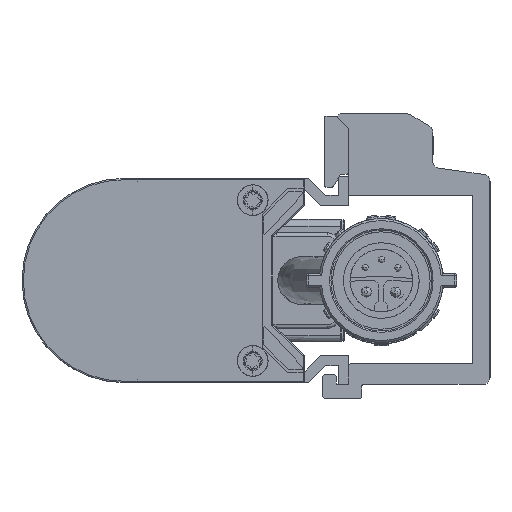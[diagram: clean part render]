
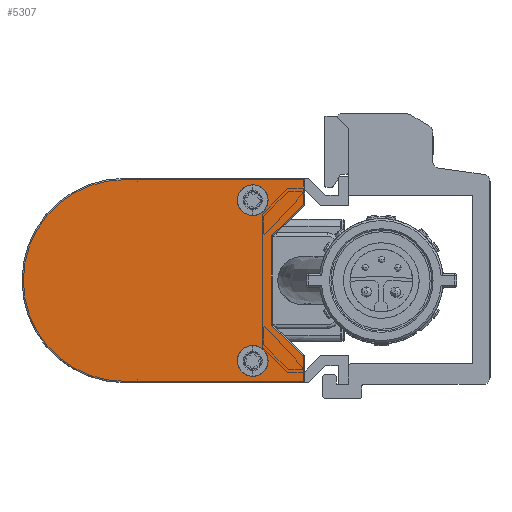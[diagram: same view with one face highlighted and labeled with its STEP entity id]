
A CAD part, left-side view. The second image highlights one B-rep face of the part: STEP entity #5307.
In plain terms, the highlighted planar face has unit normal (-1, 0, 0).
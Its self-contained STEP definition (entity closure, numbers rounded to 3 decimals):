
#2228 = VERTEX_POINT ( 'NONE', #52809 ) ;
#2624 = ORIENTED_EDGE ( 'NONE', *, *, #33411, .F. ) ;
#2977 = CARTESIAN_POINT ( 'NONE',  ( -450., 6.7, 14.8 ) ) ;
#3041 = DIRECTION ( 'NONE',  ( -1., 0., 0. ) ) ;
#3388 = EDGE_LOOP ( 'NONE', ( #6942, #63103 ) ) ;
#3534 = DIRECTION ( 'NONE',  ( -1., 0., 0. ) ) ;
#3594 = FACE_OUTER_BOUND ( 'NONE', #34437, .T. ) ;
#4553 = PLANE ( 'NONE',  #49089 ) ;
#4676 = ORIENTED_EDGE ( 'NONE', *, *, #8423, .F. ) ;
#4709 = CARTESIAN_POINT ( 'NONE',  ( -450., 6.7, -14.8 ) ) ;
#5307 = ADVANCED_FACE ( 'NONE', ( #48463, #63139, #3594 ), #4553, .T. ) ;
#5417 = CIRCLE ( 'NONE', #48314, 2.25 ) ;
#5977 = ORIENTED_EDGE ( 'NONE', *, *, #41009, .T. ) ;
#6240 = CARTESIAN_POINT ( 'NONE',  ( -450., 6.7, -14.8 ) ) ;
#6696 = LINE ( 'NONE', #51505, #49018 ) ;
#6942 = ORIENTED_EDGE ( 'NONE', *, *, #11220, .F. ) ;
#8108 = VERTEX_POINT ( 'NONE', #47184 ) ;
#8423 = EDGE_CURVE ( 'NONE', #31478, #43382, #62818, .T. ) ;
#8844 = DIRECTION ( 'NONE',  ( -1., 0., 0. ) ) ;
#8916 = VECTOR ( 'NONE', #53095, 1000. ) ;
#9079 = CARTESIAN_POINT ( 'NONE',  ( -450., 14.134, 14.05 ) ) ;
#9259 = CARTESIAN_POINT ( 'NONE',  ( -450., 33., -14.8 ) ) ;
#9814 = AXIS2_PLACEMENT_3D ( 'NONE', #38006, #3534, #33732 ) ;
#10330 = LINE ( 'NONE', #34980, #32414 ) ;
#10857 = VERTEX_POINT ( 'NONE', #18801 ) ;
#11220 = EDGE_CURVE ( 'NONE', #20085, #32218, #27575, .T. ) ;
#11503 = ORIENTED_EDGE ( 'NONE', *, *, #33220, .F. ) ;
#12161 = DIRECTION ( 'NONE',  ( -1., 0., 0. ) ) ;
#12890 = CARTESIAN_POINT ( 'NONE',  ( -450., 14.134, 11.8 ) ) ;
#13078 = CARTESIAN_POINT ( 'NONE',  ( -450., 27.25, 0. ) ) ;
#13516 = DIRECTION ( 'NONE',  ( -1., 0., 0. ) ) ;
#14225 = VERTEX_POINT ( 'NONE', #60772 ) ;
#14469 = CARTESIAN_POINT ( 'NONE',  ( -450., 6.7, 14.8 ) ) ;
#15135 = DIRECTION ( 'NONE',  ( 0., 1., 0. ) ) ;
#16147 = DIRECTION ( 'NONE',  ( -1., 0., 0. ) ) ;
#16537 = AXIS2_PLACEMENT_3D ( 'NONE', #21657, #12161, #56303 ) ;
#18082 = EDGE_CURVE ( 'NONE', #28462, #14225, #5417, .T. ) ;
#18579 = CARTESIAN_POINT ( 'NONE',  ( -450., 6.7, 11.135 ) ) ;
#18801 = CARTESIAN_POINT ( 'NONE',  ( -450., 6.7, 11.135 ) ) ;
#18802 = CIRCLE ( 'NONE', #32500, 2.25 ) ;
#19282 = VECTOR ( 'NONE', #39497, 1000. ) ;
#20085 = VERTEX_POINT ( 'NONE', #57199 ) ;
#20135 = EDGE_CURVE ( 'NONE', #10857, #58770, #43535, .T. ) ;
#20426 = CARTESIAN_POINT ( 'NONE',  ( -450., 10.999, -6.415 ) ) ;
#21103 = DIRECTION ( 'NONE',  ( 0., 0.718, -0.696 ) ) ;
#21657 = CARTESIAN_POINT ( 'NONE',  ( -450., 10.999, 6.415 ) ) ;
#23026 = DIRECTION ( 'NONE',  ( 0., 0., -1. ) ) ;
#23044 = DIRECTION ( 'NONE',  ( 0., 0., 1. ) ) ;
#23367 = EDGE_LOOP ( 'NONE', ( #30469, #62333 ) ) ;
#23879 = DIRECTION ( 'NONE',  ( 0., 0., 1. ) ) ;
#24200 = DIRECTION ( 'NONE',  ( 0., 0., -1. ) ) ;
#24532 = DIRECTION ( 'NONE',  ( -1., 0., 0. ) ) ;
#24931 = ORIENTED_EDGE ( 'NONE', *, *, #35785, .F. ) ;
#25524 = CARTESIAN_POINT ( 'NONE',  ( -450., 33., 0. ) ) ;
#26838 = CARTESIAN_POINT ( 'NONE',  ( -450., 14.134, -14.05 ) ) ;
#27074 = ORIENTED_EDGE ( 'NONE', *, *, #20135, .T. ) ;
#27107 = DIRECTION ( 'NONE',  ( 0., 0., 1. ) ) ;
#27575 = CIRCLE ( 'NONE', #9814, 2.25 ) ;
#28413 = AXIS2_PLACEMENT_3D ( 'NONE', #25524, #30130, #45507 ) ;
#28462 = VERTEX_POINT ( 'NONE', #9079 ) ;
#29649 = EDGE_CURVE ( 'NONE', #31478, #56291, #37516, .T. ) ;
#30130 = DIRECTION ( 'NONE',  ( 1., 0., 0. ) ) ;
#30469 = ORIENTED_EDGE ( 'NONE', *, *, #18082, .F. ) ;
#31478 = VERTEX_POINT ( 'NONE', #9259 ) ;
#32218 = VERTEX_POINT ( 'NONE', #26838 ) ;
#32414 = VECTOR ( 'NONE', #21103, 1000. ) ;
#32500 = AXIS2_PLACEMENT_3D ( 'NONE', #64102, #24532, #24200 ) ;
#32611 = ORIENTED_EDGE ( 'NONE', *, *, #29649, .T. ) ;
#33193 = EDGE_CURVE ( 'NONE', #32218, #20085, #57248, .T. ) ;
#33220 = EDGE_CURVE ( 'NONE', #35933, #53921, #6696, .T. ) ;
#33411 = EDGE_CURVE ( 'NONE', #2228, #8108, #39646, .T. ) ;
#33652 = CARTESIAN_POINT ( 'NONE',  ( -450., 6.7, -11.135 ) ) ;
#33732 = DIRECTION ( 'NONE',  ( 0., 0., 1. ) ) ;
#33886 = ORIENTED_EDGE ( 'NONE', *, *, #47288, .F. ) ;
#34437 = EDGE_LOOP ( 'NONE', ( #24931, #27074, #56539, #4676, #32611, #5977, #11503, #33886, #61623, #2624 ) ) ;
#34980 = CARTESIAN_POINT ( 'NONE',  ( -450., 6.7, 11.135 ) ) ;
#35785 = EDGE_CURVE ( 'NONE', #10857, #2228, #10330, .T. ) ;
#35933 = VERTEX_POINT ( 'NONE', #46831 ) ;
#37516 = LINE ( 'NONE', #61941, #8916 ) ;
#37920 = VECTOR ( 'NONE', #43214, 1000. ) ;
#38006 = CARTESIAN_POINT ( 'NONE',  ( -450., 14.134, -11.8 ) ) ;
#39497 = DIRECTION ( 'NONE',  ( 0., 0., 1. ) ) ;
#39646 = CIRCLE ( 'NONE', #16537, 0.4 ) ;
#41004 = CARTESIAN_POINT ( 'NONE',  ( -450., 33., 14.8 ) ) ;
#41009 = EDGE_CURVE ( 'NONE', #56291, #53921, #44998, .T. ) ;
#43062 = DIRECTION ( 'NONE',  ( 0., -0.718, -0.696 ) ) ;
#43214 = DIRECTION ( 'NONE',  ( 0., 0., 1. ) ) ;
#43382 = VERTEX_POINT ( 'NONE', #41004 ) ;
#43535 = LINE ( 'NONE', #18579, #37920 ) ;
#44293 = EDGE_CURVE ( 'NONE', #14225, #28462, #18802, .T. ) ;
#44998 = LINE ( 'NONE', #4709, #19282 ) ;
#45404 = AXIS2_PLACEMENT_3D ( 'NONE', #20426, #16147, #56081 ) ;
#45507 = DIRECTION ( 'NONE',  ( 0., 0., -1. ) ) ;
#46831 = CARTESIAN_POINT ( 'NONE',  ( -450., 11.278, -6.703 ) ) ;
#47184 = CARTESIAN_POINT ( 'NONE',  ( -450., 11.399, 6.415 ) ) ;
#47288 = EDGE_CURVE ( 'NONE', #63487, #35933, #52677, .T. ) ;
#48314 = AXIS2_PLACEMENT_3D ( 'NONE', #12890, #13516, #23044 ) ;
#48463 = FACE_BOUND ( 'NONE', #23367, .T. ) ;
#49018 = VECTOR ( 'NONE', #43062, 1000. ) ;
#49089 = AXIS2_PLACEMENT_3D ( 'NONE', #13078, #8844, #23879 ) ;
#49987 = AXIS2_PLACEMENT_3D ( 'NONE', #58018, #3041, #23026 ) ;
#50432 = CARTESIAN_POINT ( 'NONE',  ( -450., 11.399, -6.415 ) ) ;
#51505 = CARTESIAN_POINT ( 'NONE',  ( -450., 11.278, -6.703 ) ) ;
#51959 = CARTESIAN_POINT ( 'NONE',  ( -450., 11.399, -6.415 ) ) ;
#52677 = CIRCLE ( 'NONE', #45404, 0.4 ) ;
#52809 = CARTESIAN_POINT ( 'NONE',  ( -450., 11.278, 6.703 ) ) ;
#53095 = DIRECTION ( 'NONE',  ( 0., -1., 0. ) ) ;
#53921 = VERTEX_POINT ( 'NONE', #33652 ) ;
#56081 = DIRECTION ( 'NONE',  ( 0., 1., 0. ) ) ;
#56291 = VERTEX_POINT ( 'NONE', #6240 ) ;
#56303 = DIRECTION ( 'NONE',  ( 0., 0.696, 0.718 ) ) ;
#56539 = ORIENTED_EDGE ( 'NONE', *, *, #63024, .T. ) ;
#57199 = CARTESIAN_POINT ( 'NONE',  ( -450., 14.134, -9.55 ) ) ;
#57248 = CIRCLE ( 'NONE', #49987, 2.25 ) ;
#58018 = CARTESIAN_POINT ( 'NONE',  ( -450., 14.134, -11.8 ) ) ;
#58437 = EDGE_CURVE ( 'NONE', #63487, #8108, #61444, .T. ) ;
#58770 = VERTEX_POINT ( 'NONE', #2977 ) ;
#59645 = LINE ( 'NONE', #14469, #63036 ) ;
#60772 = CARTESIAN_POINT ( 'NONE',  ( -450., 14.134, 9.55 ) ) ;
#61444 = LINE ( 'NONE', #51959, #63901 ) ;
#61623 = ORIENTED_EDGE ( 'NONE', *, *, #58437, .T. ) ;
#61941 = CARTESIAN_POINT ( 'NONE',  ( -450., 33., -14.8 ) ) ;
#62333 = ORIENTED_EDGE ( 'NONE', *, *, #44293, .F. ) ;
#62818 = CIRCLE ( 'NONE', #28413, 14.8 ) ;
#63024 = EDGE_CURVE ( 'NONE', #58770, #43382, #59645, .T. ) ;
#63036 = VECTOR ( 'NONE', #15135, 1000. ) ;
#63103 = ORIENTED_EDGE ( 'NONE', *, *, #33193, .F. ) ;
#63139 = FACE_BOUND ( 'NONE', #3388, .T. ) ;
#63487 = VERTEX_POINT ( 'NONE', #50432 ) ;
#63901 = VECTOR ( 'NONE', #27107, 1000. ) ;
#64102 = CARTESIAN_POINT ( 'NONE',  ( -450., 14.134, 11.8 ) ) ;
